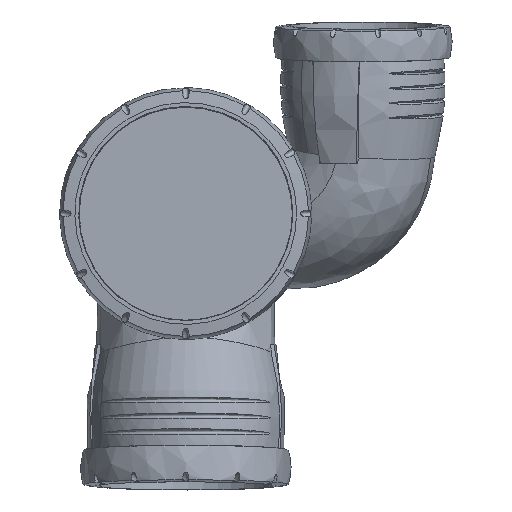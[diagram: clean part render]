
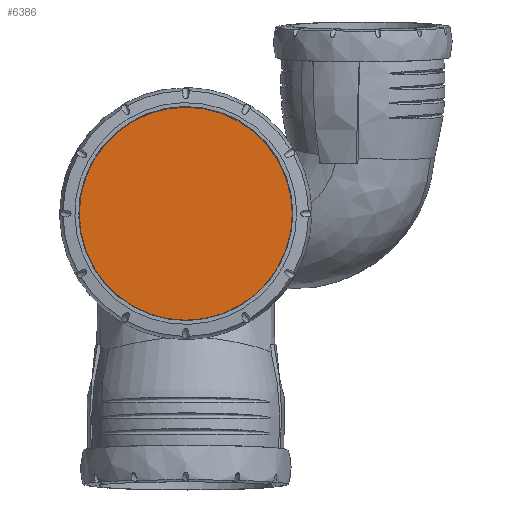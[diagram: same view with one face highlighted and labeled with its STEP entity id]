
A CAD part, top view. The second image highlights one B-rep face of the part: STEP entity #6386.
In plain terms, the highlighted planar face has unit normal (0, 0, 1).
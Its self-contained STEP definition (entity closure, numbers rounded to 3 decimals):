
#89=PLANE('',#6862);
#674=CIRCLE('',#6863,55.366);
#1079=FACE_OUTER_BOUND('',#1492,.T.);
#1492=EDGE_LOOP('',(#4834));
#2474=VERTEX_POINT('',#18221);
#3296=EDGE_CURVE('',#2474,#2474,#674,.T.);
#4834=ORIENTED_EDGE('',*,*,#3296,.T.);
#6386=ADVANCED_FACE('',(#1079),#89,.F.);
#6862=AXIS2_PLACEMENT_3D('',#18220,#7785,#7786);
#6863=AXIS2_PLACEMENT_3D('',#18222,#7787,#7788);
#7785=DIRECTION('center_axis',(0.,0.,
-1.));
#7786=DIRECTION('ref_axis',(0.,-1.,0.));
#7787=DIRECTION('center_axis',(0.,0.,
1.));
#7788=DIRECTION('ref_axis',(0.,-1.,0.));
#18220=CARTESIAN_POINT('Origin',(56.576,55.366,215.4));
#18221=CARTESIAN_POINT('',(0.,55.366,215.4));
#18222=CARTESIAN_POINT('Origin',(0.,0.,
215.4));
